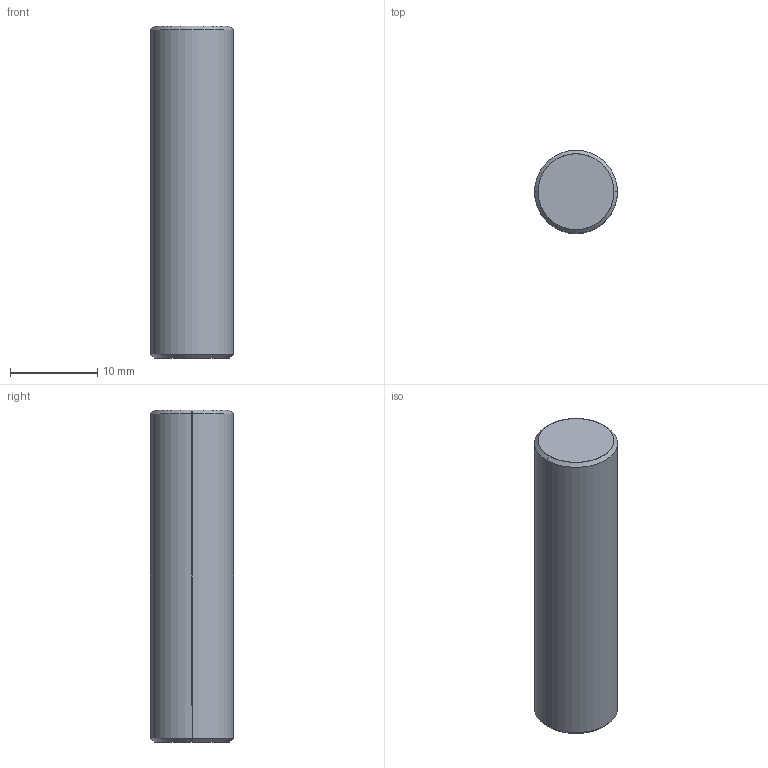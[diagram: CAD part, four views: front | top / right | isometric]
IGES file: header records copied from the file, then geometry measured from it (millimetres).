
Start section: SolidWorks IGES file using analytic representation for surfaces
Global section: file name: D:\Solid_parts\MECHeDESIGN\Bal-Tec\Catalog 105-A\Distribution\IGES\375-C.IGS; native system: SolidWorks 2005 by SolidWorks Corporation; preprocessor: SolidWorks 2005 by SolidWorks Corporation; author: rvillegas; date: 061204.225939; units: inch
Bounding box: 9.53 x 9.53 x 38.1 mm (x, y, z)
Surface area: 1267.9 mm2 (no closed solid volume)
Topology: 0 solids, 0 shells, 8 faces, 88 edges, 88 vertices
Faces by surface type: revolution 6, bspline 2
